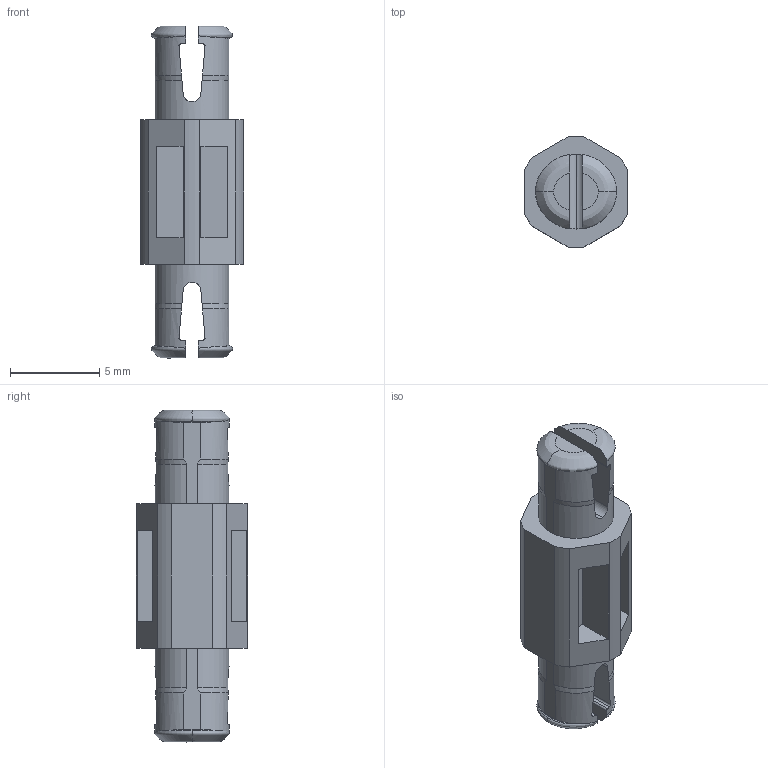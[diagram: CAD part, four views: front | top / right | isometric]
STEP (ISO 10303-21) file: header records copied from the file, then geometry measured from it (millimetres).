
FILE_DESCRIPTION (( 'STEP AP214' ), '1' );
FILE_NAME ('228-2500-2268.STEP', '2021-02-18T20:32:17', ( '' ), ( '' ), 'SwSTEP 2.0', 'SolidWorks 2019', '' );
FILE_SCHEMA (( 'AUTOMOTIVE_DESIGN' ));
Length unit declared in the file: millimetre
Products named in the file (1): 228-2500-2268
Bounding box: 5.8 x 6.24 x 18.63 mm (x, y, z)
Volume: 288.8 mm3; surface area: 484.9 mm2
Topology: 1 solids, 1 shells, 106 faces, 282 edges, 184 vertices
Faces by surface type: plane 52, cylinder 30, bspline 16, cone 8
Entity records: 13220 total; most frequent: CARTESIAN_POINT 10785, ORIENTED_EDGE 564, DIRECTION 408, EDGE_CURVE 282, VERTEX_POINT 184, AXIS2_PLACEMENT_3D 139, VECTOR 130, LINE 130
